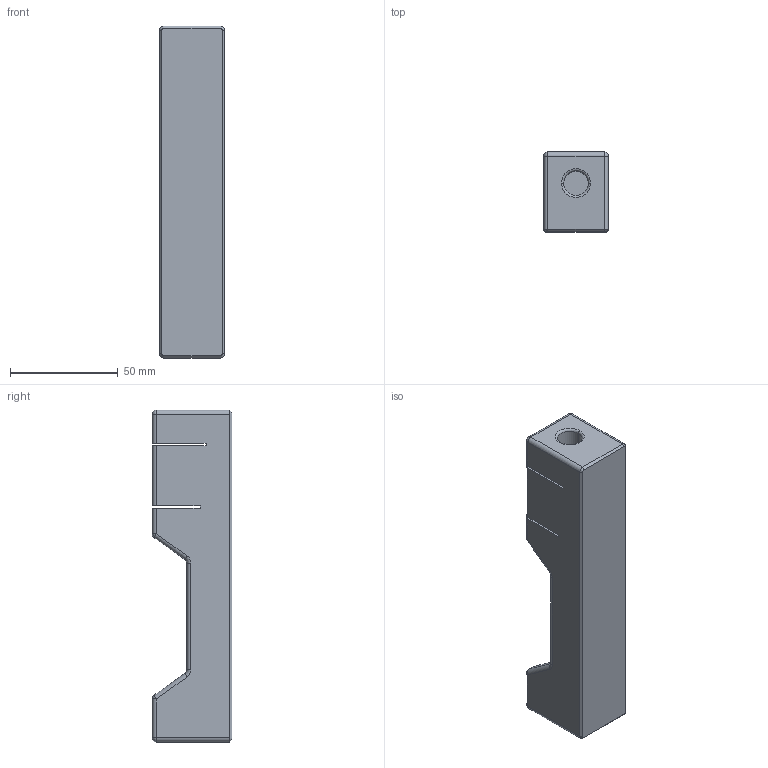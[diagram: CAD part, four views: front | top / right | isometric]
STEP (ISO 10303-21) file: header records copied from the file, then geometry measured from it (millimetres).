
FILE_DESCRIPTION (( 'STEP AP214' ), '1' );
FILE_NAME ('ArmsJig.STEP', '2026-07-05T21:13:02', ( '' ), ( '' ), 'SwSTEP 2.0', 'SolidWorks 2025', '' );
FILE_SCHEMA (( 'AUTOMOTIVE_DESIGN' ));
Length unit declared in the file: millimetre
Products named in the file (1): ArmsJig
Bounding box: 30 x 37 x 154 mm (x, y, z)
Volume: 95229.2 mm3; surface area: 29261.9 mm2
Topology: 1 solids, 1 shells, 405 faces, 1074 edges, 690 vertices
Faces by surface type: plane 233, bspline 100, cylinder 44, torus 12, sphere 12, cone 4
Entity records: 16736 total; most frequent: CARTESIAN_POINT 7315, ORIENTED_EDGE 2126, DIRECTION 1591, EDGE_CURVE 1063, LINE 747, VECTOR 747, VERTEX_POINT 690, EDGE_LOOP 441
